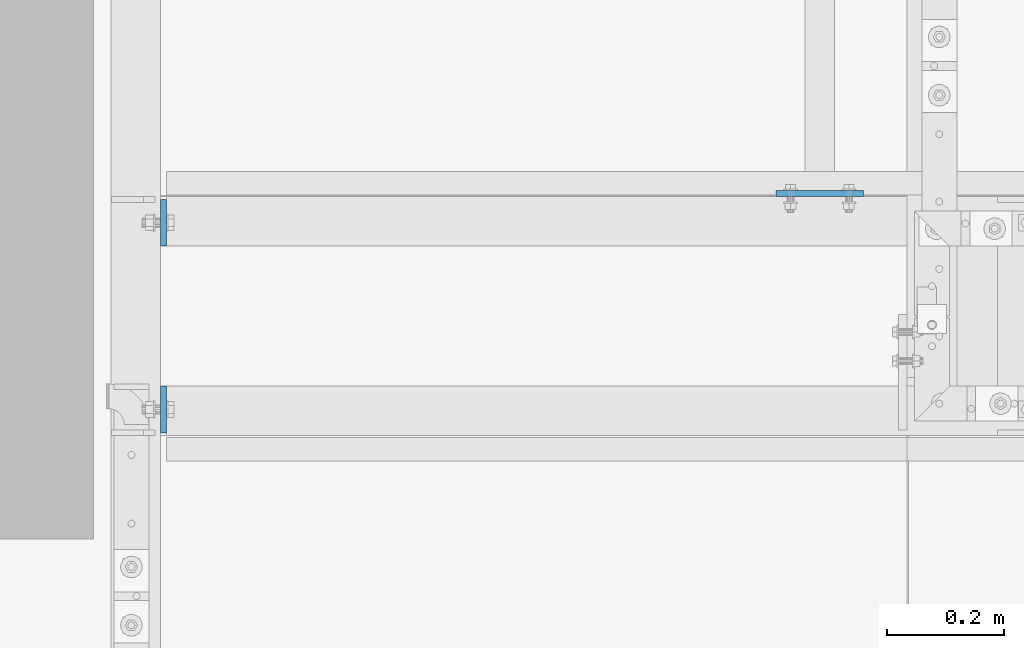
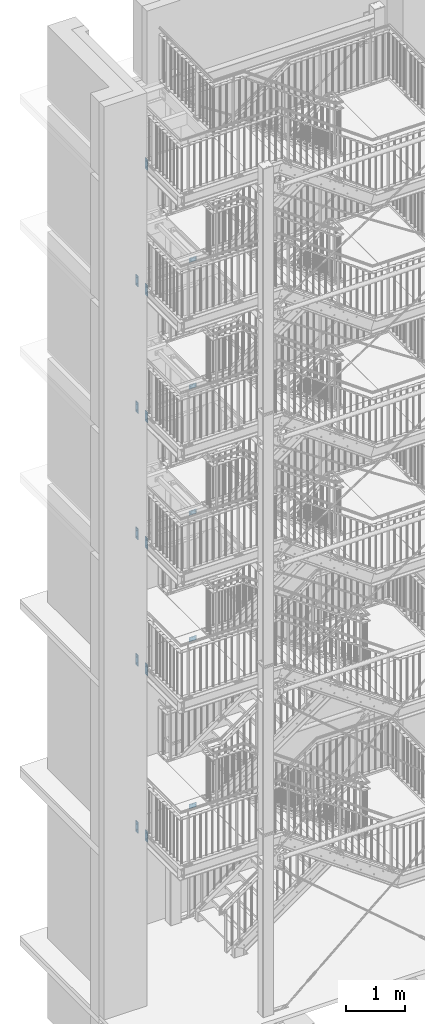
# One storey, part 158 of 825: 16 plates, 64 openings.
"""IFC2X3 building model written with IfcOpenShell, lengths in millimetres."""

from ifc_helpers import new_model, entity, si_unit, converted_unit, frame, frame_2d, origin, origin_with_axes, origin_2d_with_axis, place, context, project, spatial, polyline, circle, outline, extrude, material, layer, layer_set, element, save


model = new_model("IFC2X3")

# Units and contexts
model_context = context("Model", 3, precision=1e-09, world=origin_with_axes())
ifc_project = project(units=[si_unit("LENGTHUNIT", "METRE", prefix="MILLI"), si_unit("AREAUNIT", "SQUARE_METRE"), si_unit("VOLUMEUNIT", "CUBIC_METRE"), converted_unit("PLANEANGLEUNIT", "DEGREE", entity("IfcPlaneAngleMeasure", 0.01745329), si_unit("PLANEANGLEUNIT", "RADIAN"), dimensions=[0, 0, 0, 0, 0, 0, 0])], contexts=[model_context])

# Site, building, storey
site_placement = place(None, origin_with_axes())
site = spatial("IfcSite", under=ifc_project, at=site_placement, Name="Cnopf'sche Kinderklinik", CompositionType="ELEMENT")
building_placement = place(site_placement, origin_with_axes())
building = spatial("IfcBuilding", under=site, at=building_placement, Name="Struktur 1", CompositionType="ELEMENT")
storey_placement = place(building_placement, origin_with_axes())
storey = spatial("IfcBuildingStorey", under=building, at=storey_placement, Name="Default Storey", CompositionType="ELEMENT", Elevation=0.0)

# Plate, openings
ifc_material = material(Name="S235JR")
ifc_layer = layer(ifc_material, 10.0)
ifc_layer_set = layer_set([ifc_layer], Name="S235JR")
plate_1_placement = place(None, frame((4451.713402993, 6147.236971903, 15114.0), z_axis=(0.0, -1.0, 0.0), x_axis=(1.0, 0.0, 0.0)))
plate_1 = element("IfcPlate", 1, at=plate_1_placement, inside=storey, material=ifc_layer_set, Name="-", ObjectType="-", context=model_context, shape_type="SweptSolid", body=[
    extrude(outline(polyline([(-75.0, -45.0), (75.0, -45.0), (75.0, 45.0), (-75.0, 45.0), (-75.0, -45.0)])), origin_with_axes(), (0.0, 0.0, -1.0), 10.0),
])
opening_1_placement = place(plate_1_placement, frame((-10.5, -33.0, 0.5), z_axis=(0.0, 0.0, -1.0), x_axis=(0.0, 1.0, 0.0)))
element("IfcOpeningElement", 2, at=opening_1_placement, cuts=plate_1, ObjectType="Opening", context=model_context, shape_type="SweptSolid", body=[
    extrude(circle(Radius=6.001, at=origin_2d_with_axis()), origin(), (0.0, 0.0, 1.0), 11.0),
])
opening_2_placement = place(plate_1_placement, frame((-10.5, 33.0, 0.5), z_axis=(0.0, 0.0, -1.0), x_axis=(0.0, 1.0, 0.0)))
element("IfcOpeningElement", 3, at=opening_2_placement, cuts=plate_1, ObjectType="Opening", context=model_context, shape_type="SweptSolid", body=[
    extrude(circle(Radius=6.001, at=origin_2d_with_axis()), origin(), (0.0, 0.0, 1.0), 11.0),
])
opening_3_placement = place(plate_1_placement, frame((42.999, 0.0, 0.5), z_axis=(0.0, 0.0, 1.0), x_axis=(1.0, 0.0, 0.0)))
element("IfcOpeningElement", 4, at=opening_3_placement, cuts=plate_1, ObjectType="Opening", context=model_context, shape_type="SweptSolid", body=[
    extrude(circle(Radius=7.001, at=frame_2d((7.001, 0.0), x_axis=(1.0, 0.0))), origin(), (0.0, 0.0, -1.0), 11.0),
])
opening_4_placement = place(plate_1_placement, frame((-57.001, 0.0, 0.5), z_axis=(0.0, 0.0, 1.0), x_axis=(1.0, 0.0, 0.0)))
element("IfcOpeningElement", 5, at=opening_4_placement, cuts=plate_1, ObjectType="Opening", context=model_context, shape_type="SweptSolid", body=[
    extrude(circle(Radius=7.001, at=frame_2d((7.001, 0.0), x_axis=(1.0, 0.0))), origin(), (0.0, 0.0, -1.0), 11.0),
])

plate_2_placement = place(None, frame((4451.713402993, 6147.236971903, 12479.0), z_axis=(0.0, -1.0, 0.0), x_axis=(1.0, 0.0, 0.0)))
plate_2 = element("IfcPlate", 6, at=plate_2_placement, inside=storey, material=ifc_layer_set, Name="-", ObjectType="-", context=model_context, shape_type="SweptSolid", body=[
    extrude(outline(polyline([(-75.0, -45.0), (75.0, -45.0), (75.0, 45.0), (-75.0, 45.0), (-75.0, -45.0)])), origin_with_axes(), (0.0, 0.0, -1.0), 10.0),
])
opening_5_placement = place(plate_2_placement, frame((-10.5, -33.0, 0.5), z_axis=(0.0, 0.0, -1.0), x_axis=(0.0, 1.0, 0.0)))
element("IfcOpeningElement", 7, at=opening_5_placement, cuts=plate_2, ObjectType="Opening", context=model_context, shape_type="SweptSolid", body=[
    extrude(circle(Radius=6.001, at=origin_2d_with_axis()), origin(), (0.0, 0.0, 1.0), 11.0),
])
opening_6_placement = place(plate_2_placement, frame((-10.5, 33.0, 0.5), z_axis=(0.0, 0.0, -1.0), x_axis=(0.0, 1.0, 0.0)))
element("IfcOpeningElement", 8, at=opening_6_placement, cuts=plate_2, ObjectType="Opening", context=model_context, shape_type="SweptSolid", body=[
    extrude(circle(Radius=6.001, at=origin_2d_with_axis()), origin(), (0.0, 0.0, 1.0), 11.0),
])
opening_7_placement = place(plate_2_placement, frame((42.999, 0.0, 0.5), z_axis=(0.0, 0.0, 1.0), x_axis=(1.0, 0.0, 0.0)))
element("IfcOpeningElement", 9, at=opening_7_placement, cuts=plate_2, ObjectType="Opening", context=model_context, shape_type="SweptSolid", body=[
    extrude(circle(Radius=7.001, at=frame_2d((7.001, 0.0), x_axis=(1.0, 0.0))), origin(), (0.0, 0.0, -1.0), 11.0),
])
opening_8_placement = place(plate_2_placement, frame((-57.001, 0.0, 0.5), z_axis=(0.0, 0.0, 1.0), x_axis=(1.0, 0.0, 0.0)))
element("IfcOpeningElement", 10, at=opening_8_placement, cuts=plate_2, ObjectType="Opening", context=model_context, shape_type="SweptSolid", body=[
    extrude(circle(Radius=7.001, at=frame_2d((7.001, 0.0), x_axis=(1.0, 0.0))), origin(), (0.0, 0.0, -1.0), 11.0),
])

plate_3_placement = place(None, frame((4451.713402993, 6147.236971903, 9852.0), z_axis=(0.0, -1.0, 0.0), x_axis=(1.0, 0.0, 0.0)))
plate_3 = element("IfcPlate", 11, at=plate_3_placement, inside=storey, material=ifc_layer_set, Name="-", ObjectType="-", context=model_context, shape_type="SweptSolid", body=[
    extrude(outline(polyline([(-75.0, -45.0), (75.0, -45.0), (75.0, 45.0), (-75.0, 45.0), (-75.0, -45.0)])), origin_with_axes(), (0.0, 0.0, -1.0), 10.0),
])
opening_9_placement = place(plate_3_placement, frame((-10.5, -33.0, 0.5), z_axis=(0.0, 0.0, -1.0), x_axis=(0.0, 1.0, 0.0)))
element("IfcOpeningElement", 12, at=opening_9_placement, cuts=plate_3, ObjectType="Opening", context=model_context, shape_type="SweptSolid", body=[
    extrude(circle(Radius=6.001, at=origin_2d_with_axis()), origin(), (0.0, 0.0, 1.0), 11.0),
])
opening_10_placement = place(plate_3_placement, frame((-10.5, 33.0, 0.5), z_axis=(0.0, 0.0, -1.0), x_axis=(0.0, 1.0, 0.0)))
element("IfcOpeningElement", 13, at=opening_10_placement, cuts=plate_3, ObjectType="Opening", context=model_context, shape_type="SweptSolid", body=[
    extrude(circle(Radius=6.001, at=origin_2d_with_axis()), origin(), (0.0, 0.0, 1.0), 11.0),
])
opening_11_placement = place(plate_3_placement, frame((42.999, 0.0, 0.5), z_axis=(0.0, 0.0, 1.0), x_axis=(1.0, 0.0, 0.0)))
element("IfcOpeningElement", 14, at=opening_11_placement, cuts=plate_3, ObjectType="Opening", context=model_context, shape_type="SweptSolid", body=[
    extrude(circle(Radius=7.001, at=frame_2d((7.001, 0.0), x_axis=(1.0, 0.0))), origin(), (0.0, 0.0, -1.0), 11.0),
])
opening_12_placement = place(plate_3_placement, frame((-57.001, 0.0, 0.5), z_axis=(0.0, 0.0, 1.0), x_axis=(1.0, 0.0, 0.0)))
element("IfcOpeningElement", 15, at=opening_12_placement, cuts=plate_3, ObjectType="Opening", context=model_context, shape_type="SweptSolid", body=[
    extrude(circle(Radius=7.001, at=frame_2d((7.001, 0.0), x_axis=(1.0, 0.0))), origin(), (0.0, 0.0, -1.0), 11.0),
])

plate_4_placement = place(None, frame((4451.713402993, 6147.236971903, 7220.0), z_axis=(0.0, -1.0, 0.0), x_axis=(1.0, 0.0, 0.0)))
plate_4 = element("IfcPlate", 16, at=plate_4_placement, inside=storey, material=ifc_layer_set, Name="-", ObjectType="-", context=model_context, shape_type="SweptSolid", body=[
    extrude(outline(polyline([(-75.0, -45.0), (75.0, -45.0), (75.0, 45.0), (-75.0, 45.0), (-75.0, -45.0)])), origin_with_axes(), (0.0, 0.0, -1.0), 10.0),
])
opening_13_placement = place(plate_4_placement, frame((-10.5, -33.0, 0.5), z_axis=(0.0, 0.0, -1.0), x_axis=(0.0, 1.0, 0.0)))
element("IfcOpeningElement", 17, at=opening_13_placement, cuts=plate_4, ObjectType="Opening", context=model_context, shape_type="SweptSolid", body=[
    extrude(circle(Radius=6.001, at=origin_2d_with_axis()), origin(), (0.0, 0.0, 1.0), 11.0),
])
opening_14_placement = place(plate_4_placement, frame((-10.5, 33.0, 0.5), z_axis=(0.0, 0.0, -1.0), x_axis=(0.0, 1.0, 0.0)))
element("IfcOpeningElement", 18, at=opening_14_placement, cuts=plate_4, ObjectType="Opening", context=model_context, shape_type="SweptSolid", body=[
    extrude(circle(Radius=6.001, at=origin_2d_with_axis()), origin(), (0.0, 0.0, 1.0), 11.0),
])
opening_15_placement = place(plate_4_placement, frame((42.999, 0.0, 0.5), z_axis=(0.0, 0.0, 1.0), x_axis=(1.0, 0.0, 0.0)))
element("IfcOpeningElement", 19, at=opening_15_placement, cuts=plate_4, ObjectType="Opening", context=model_context, shape_type="SweptSolid", body=[
    extrude(circle(Radius=7.001, at=frame_2d((7.001, 0.0), x_axis=(1.0, 0.0))), origin(), (0.0, 0.0, -1.0), 11.0),
])
opening_16_placement = place(plate_4_placement, frame((-57.001, 0.0, 0.5), z_axis=(0.0, 0.0, 1.0), x_axis=(1.0, 0.0, 0.0)))
element("IfcOpeningElement", 20, at=opening_16_placement, cuts=plate_4, ObjectType="Opening", context=model_context, shape_type="SweptSolid", body=[
    extrude(circle(Radius=7.001, at=frame_2d((7.001, 0.0), x_axis=(1.0, 0.0))), origin(), (0.0, 0.0, -1.0), 11.0),
])

plate_5_placement = place(None, frame((4451.713402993, 6147.236971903, 3747.0), z_axis=(0.0, -1.0, 0.0), x_axis=(1.0, 0.0, 0.0)))
plate_5 = element("IfcPlate", 21, at=plate_5_placement, inside=storey, material=ifc_layer_set, Name="-", ObjectType="-", context=model_context, shape_type="SweptSolid", body=[
    extrude(outline(polyline([(-75.0, -45.0), (75.0, -45.0), (75.0, 45.0), (-75.0, 45.0), (-75.0, -45.0)])), origin_with_axes(), (0.0, 0.0, -1.0), 10.0),
])
opening_17_placement = place(plate_5_placement, frame((-10.5, -33.0, 0.5), z_axis=(0.0, 0.0, -1.0), x_axis=(0.0, 1.0, 0.0)))
element("IfcOpeningElement", 22, at=opening_17_placement, cuts=plate_5, ObjectType="Opening", context=model_context, shape_type="SweptSolid", body=[
    extrude(circle(Radius=6.001, at=origin_2d_with_axis()), origin(), (0.0, 0.0, 1.0), 11.0),
])
opening_18_placement = place(plate_5_placement, frame((-10.5, 33.0, 0.5), z_axis=(0.0, 0.0, -1.0), x_axis=(0.0, 1.0, 0.0)))
element("IfcOpeningElement", 23, at=opening_18_placement, cuts=plate_5, ObjectType="Opening", context=model_context, shape_type="SweptSolid", body=[
    extrude(circle(Radius=6.001, at=origin_2d_with_axis()), origin(), (0.0, 0.0, 1.0), 11.0),
])
opening_19_placement = place(plate_5_placement, frame((42.999, 0.0, 0.5), z_axis=(0.0, 0.0, 1.0), x_axis=(1.0, 0.0, 0.0)))
element("IfcOpeningElement", 24, at=opening_19_placement, cuts=plate_5, ObjectType="Opening", context=model_context, shape_type="SweptSolid", body=[
    extrude(circle(Radius=7.001, at=frame_2d((7.001, 0.0), x_axis=(1.0, 0.0))), origin(), (0.0, 0.0, -1.0), 11.0),
])
opening_20_placement = place(plate_5_placement, frame((-57.001, 0.0, 0.5), z_axis=(0.0, 0.0, 1.0), x_axis=(1.0, 0.0, 0.0)))
element("IfcOpeningElement", 25, at=opening_20_placement, cuts=plate_5, ObjectType="Opening", context=model_context, shape_type="SweptSolid", body=[
    extrude(circle(Radius=7.001, at=frame_2d((7.001, 0.0), x_axis=(1.0, 0.0))), origin(), (0.0, 0.0, -1.0), 11.0),
])

plate_6_placement = place(None, frame((3321.713402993, 5741.736971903, 3842.0), z_axis=(1.0, 0.0, 0.0), x_axis=(0.0, 0.0, -1.0)))
plate_6 = element("IfcPlate", 26, at=plate_6_placement, inside=storey, material=ifc_layer_set, Name="Endplate", ObjectType="Endplate", context=model_context, shape_type="SweptSolid", body=[
    extrude(outline(polyline([(0.0, 0.0), (230.0, 0.0), (230.0, 80.0), (0.0, 80.0), (0.0, 0.0)])), origin_with_axes(), (0.0, 0.0, 1.0), 10.0),
])
opening_21_placement = place(plate_6_placement, frame((209.0, 17.5, -0.5), z_axis=(0.0, 0.0, 1.0), x_axis=(1.0, 0.0, 0.0)))
element("IfcOpeningElement", 27, at=opening_21_placement, cuts=plate_6, ObjectType="Opening", context=model_context, shape_type="SweptSolid", body=[
    extrude(circle(Radius=6.001, at=origin_2d_with_axis()), origin(), (0.0, 0.0, 1.0), 11.0),
])
opening_22_placement = place(plate_6_placement, frame((21.0, 17.5, -0.5), z_axis=(0.0, 0.0, 1.0), x_axis=(1.0, 0.0, 0.0)))
element("IfcOpeningElement", 28, at=opening_22_placement, cuts=plate_6, ObjectType="Opening", context=model_context, shape_type="SweptSolid", body=[
    extrude(circle(Radius=6.001, at=origin_2d_with_axis()), origin(), (0.0, 0.0, 1.0), 11.0),
])
opening_23_placement = place(plate_6_placement, frame((64.001, 40.0, -0.5), z_axis=(0.0, 0.0, -1.0), x_axis=(-1.0, 0.0, 0.0)))
element("IfcOpeningElement", 29, at=opening_23_placement, cuts=plate_6, ObjectType="Opening", context=model_context, shape_type="SweptSolid", body=[
    extrude(circle(Radius=9.001, at=frame_2d((9.001, 0.0), x_axis=(1.0, 0.0))), origin(), (0.0, 0.0, -1.0), 11.0),
])
opening_24_placement = place(plate_6_placement, frame((184.001, 40.0, -0.5), z_axis=(0.0, 0.0, -1.0), x_axis=(-1.0, 0.0, 0.0)))
element("IfcOpeningElement", 30, at=opening_24_placement, cuts=plate_6, ObjectType="Opening", context=model_context, shape_type="SweptSolid", body=[
    extrude(circle(Radius=9.001, at=frame_2d((9.001, 0.0), x_axis=(1.0, 0.0))), origin(), (0.0, 0.0, -1.0), 11.0),
])

plate_7_placement = place(None, frame((3321.713402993, 5741.736971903, 7315.0), z_axis=(1.0, 0.0, 0.0), x_axis=(0.0, 0.0, -1.0)))
plate_7 = element("IfcPlate", 31, at=plate_7_placement, inside=storey, material=ifc_layer_set, Name="Endplate", ObjectType="Endplate", context=model_context, shape_type="SweptSolid", body=[
    extrude(outline(polyline([(0.0, 0.0), (230.0, 0.0), (230.0, 80.0), (0.0, 80.0), (0.0, 0.0)])), origin_with_axes(), (0.0, 0.0, 1.0), 10.0),
])
opening_25_placement = place(plate_7_placement, frame((209.0, 17.5, -0.5), z_axis=(0.0, 0.0, 1.0), x_axis=(1.0, 0.0, 0.0)))
element("IfcOpeningElement", 32, at=opening_25_placement, cuts=plate_7, ObjectType="Opening", context=model_context, shape_type="SweptSolid", body=[
    extrude(circle(Radius=6.001, at=origin_2d_with_axis()), origin(), (0.0, 0.0, 1.0), 11.0),
])
opening_26_placement = place(plate_7_placement, frame((21.0, 17.5, -0.5), z_axis=(0.0, 0.0, 1.0), x_axis=(1.0, 0.0, 0.0)))
element("IfcOpeningElement", 33, at=opening_26_placement, cuts=plate_7, ObjectType="Opening", context=model_context, shape_type="SweptSolid", body=[
    extrude(circle(Radius=6.001, at=origin_2d_with_axis()), origin(), (0.0, 0.0, 1.0), 11.0),
])
opening_27_placement = place(plate_7_placement, frame((64.001, 40.0, -0.5), z_axis=(0.0, 0.0, -1.0), x_axis=(-1.0, 0.0, 0.0)))
element("IfcOpeningElement", 34, at=opening_27_placement, cuts=plate_7, ObjectType="Opening", context=model_context, shape_type="SweptSolid", body=[
    extrude(circle(Radius=9.001, at=frame_2d((9.001, 0.0), x_axis=(1.0, 0.0))), origin(), (0.0, 0.0, -1.0), 11.0),
])
opening_28_placement = place(plate_7_placement, frame((184.001, 40.0, -0.5), z_axis=(0.0, 0.0, -1.0), x_axis=(-1.0, 0.0, 0.0)))
element("IfcOpeningElement", 35, at=opening_28_placement, cuts=plate_7, ObjectType="Opening", context=model_context, shape_type="SweptSolid", body=[
    extrude(circle(Radius=9.001, at=frame_2d((9.001, 0.0), x_axis=(1.0, 0.0))), origin(), (0.0, 0.0, -1.0), 11.0),
])

plate_8_placement = place(None, frame((3321.713402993, 5741.736971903, 9947.0), z_axis=(1.0, 0.0, 0.0), x_axis=(0.0, 0.0, -1.0)))
plate_8 = element("IfcPlate", 36, at=plate_8_placement, inside=storey, material=ifc_layer_set, Name="Endplate", ObjectType="Endplate", context=model_context, shape_type="SweptSolid", body=[
    extrude(outline(polyline([(0.0, 0.0), (230.0, 0.0), (230.0, 80.0), (0.0, 80.0), (0.0, 0.0)])), origin_with_axes(), (0.0, 0.0, 1.0), 10.0),
])
opening_29_placement = place(plate_8_placement, frame((209.0, 17.5, -0.5), z_axis=(0.0, 0.0, 1.0), x_axis=(1.0, 0.0, 0.0)))
element("IfcOpeningElement", 37, at=opening_29_placement, cuts=plate_8, ObjectType="Opening", context=model_context, shape_type="SweptSolid", body=[
    extrude(circle(Radius=6.001, at=origin_2d_with_axis()), origin(), (0.0, 0.0, 1.0), 11.0),
])
opening_30_placement = place(plate_8_placement, frame((21.0, 17.5, -0.5), z_axis=(0.0, 0.0, 1.0), x_axis=(1.0, 0.0, 0.0)))
element("IfcOpeningElement", 38, at=opening_30_placement, cuts=plate_8, ObjectType="Opening", context=model_context, shape_type="SweptSolid", body=[
    extrude(circle(Radius=6.001, at=origin_2d_with_axis()), origin(), (0.0, 0.0, 1.0), 11.0),
])
opening_31_placement = place(plate_8_placement, frame((64.001, 40.0, -0.5), z_axis=(0.0, 0.0, -1.0), x_axis=(-1.0, 0.0, 0.0)))
element("IfcOpeningElement", 39, at=opening_31_placement, cuts=plate_8, ObjectType="Opening", context=model_context, shape_type="SweptSolid", body=[
    extrude(circle(Radius=9.001, at=frame_2d((9.001, 0.0), x_axis=(1.0, 0.0))), origin(), (0.0, 0.0, -1.0), 11.0),
])
opening_32_placement = place(plate_8_placement, frame((184.001, 40.0, -0.5), z_axis=(0.0, 0.0, -1.0), x_axis=(-1.0, 0.0, 0.0)))
element("IfcOpeningElement", 40, at=opening_32_placement, cuts=plate_8, ObjectType="Opening", context=model_context, shape_type="SweptSolid", body=[
    extrude(circle(Radius=9.001, at=frame_2d((9.001, 0.0), x_axis=(1.0, 0.0))), origin(), (0.0, 0.0, -1.0), 11.0),
])

plate_9_placement = place(None, frame((3321.713402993, 5741.736971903, 12574.0), z_axis=(1.0, 0.0, 0.0), x_axis=(0.0, 0.0, -1.0)))
plate_9 = element("IfcPlate", 41, at=plate_9_placement, inside=storey, material=ifc_layer_set, Name="Endplate", ObjectType="Endplate", context=model_context, shape_type="SweptSolid", body=[
    extrude(outline(polyline([(0.0, 0.0), (230.0, 0.0), (230.0, 80.0), (0.0, 80.0), (0.0, 0.0)])), origin_with_axes(), (0.0, 0.0, 1.0), 10.0),
])
opening_33_placement = place(plate_9_placement, frame((209.0, 17.5, -0.5), z_axis=(0.0, 0.0, 1.0), x_axis=(1.0, 0.0, 0.0)))
element("IfcOpeningElement", 42, at=opening_33_placement, cuts=plate_9, ObjectType="Opening", context=model_context, shape_type="SweptSolid", body=[
    extrude(circle(Radius=6.001, at=origin_2d_with_axis()), origin(), (0.0, 0.0, 1.0), 11.0),
])
opening_34_placement = place(plate_9_placement, frame((21.0, 17.5, -0.5), z_axis=(0.0, 0.0, 1.0), x_axis=(1.0, 0.0, 0.0)))
element("IfcOpeningElement", 43, at=opening_34_placement, cuts=plate_9, ObjectType="Opening", context=model_context, shape_type="SweptSolid", body=[
    extrude(circle(Radius=6.001, at=origin_2d_with_axis()), origin(), (0.0, 0.0, 1.0), 11.0),
])
opening_35_placement = place(plate_9_placement, frame((64.001, 40.0, -0.5), z_axis=(0.0, 0.0, -1.0), x_axis=(-1.0, 0.0, 0.0)))
element("IfcOpeningElement", 44, at=opening_35_placement, cuts=plate_9, ObjectType="Opening", context=model_context, shape_type="SweptSolid", body=[
    extrude(circle(Radius=9.001, at=frame_2d((9.001, 0.0), x_axis=(1.0, 0.0))), origin(), (0.0, 0.0, -1.0), 11.0),
])
opening_36_placement = place(plate_9_placement, frame((184.001, 40.0, -0.5), z_axis=(0.0, 0.0, -1.0), x_axis=(-1.0, 0.0, 0.0)))
element("IfcOpeningElement", 45, at=opening_36_placement, cuts=plate_9, ObjectType="Opening", context=model_context, shape_type="SweptSolid", body=[
    extrude(circle(Radius=9.001, at=frame_2d((9.001, 0.0), x_axis=(1.0, 0.0))), origin(), (0.0, 0.0, -1.0), 11.0),
])

plate_10_placement = place(None, frame((3321.713402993, 5741.736971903, 15209.0), z_axis=(1.0, 0.0, 0.0), x_axis=(0.0, 0.0, -1.0)))
plate_10 = element("IfcPlate", 46, at=plate_10_placement, inside=storey, material=ifc_layer_set, Name="Endplate", ObjectType="Endplate", context=model_context, shape_type="SweptSolid", body=[
    extrude(outline(polyline([(0.0, 0.0), (230.0, 0.0), (230.0, 80.0), (0.0, 80.0), (0.0, 0.0)])), origin_with_axes(), (0.0, 0.0, 1.0), 10.0),
])
opening_37_placement = place(plate_10_placement, frame((209.0, 17.5, -0.5), z_axis=(0.0, 0.0, 1.0), x_axis=(1.0, 0.0, 0.0)))
element("IfcOpeningElement", 47, at=opening_37_placement, cuts=plate_10, ObjectType="Opening", context=model_context, shape_type="SweptSolid", body=[
    extrude(circle(Radius=6.001, at=origin_2d_with_axis()), origin(), (0.0, 0.0, 1.0), 11.0),
])
opening_38_placement = place(plate_10_placement, frame((21.0, 17.5, -0.5), z_axis=(0.0, 0.0, 1.0), x_axis=(1.0, 0.0, 0.0)))
element("IfcOpeningElement", 48, at=opening_38_placement, cuts=plate_10, ObjectType="Opening", context=model_context, shape_type="SweptSolid", body=[
    extrude(circle(Radius=6.001, at=origin_2d_with_axis()), origin(), (0.0, 0.0, 1.0), 11.0),
])
opening_39_placement = place(plate_10_placement, frame((64.001, 40.0, -0.5), z_axis=(0.0, 0.0, -1.0), x_axis=(-1.0, 0.0, 0.0)))
element("IfcOpeningElement", 49, at=opening_39_placement, cuts=plate_10, ObjectType="Opening", context=model_context, shape_type="SweptSolid", body=[
    extrude(circle(Radius=9.001, at=frame_2d((9.001, 0.0), x_axis=(1.0, 0.0))), origin(), (0.0, 0.0, -1.0), 11.0),
])
opening_40_placement = place(plate_10_placement, frame((184.001, 40.0, -0.5), z_axis=(0.0, 0.0, -1.0), x_axis=(-1.0, 0.0, 0.0)))
element("IfcOpeningElement", 50, at=opening_40_placement, cuts=plate_10, ObjectType="Opening", context=model_context, shape_type="SweptSolid", body=[
    extrude(circle(Radius=9.001, at=frame_2d((9.001, 0.0), x_axis=(1.0, 0.0))), origin(), (0.0, 0.0, -1.0), 11.0),
])

plate_11_placement = place(None, frame((3321.713402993, 5741.736971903, 17828.999999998), z_axis=(1.0, 0.0, 0.0), x_axis=(0.0, 0.0, -1.0)))
plate_11 = element("IfcPlate", 51, at=plate_11_placement, inside=storey, material=ifc_layer_set, Name="Endplate", ObjectType="Endplate", context=model_context, shape_type="SweptSolid", body=[
    extrude(outline(polyline([(0.0, 0.0), (230.0, 0.0), (230.0, 80.0), (0.0, 80.0), (0.0, 0.0)])), origin_with_axes(), (0.0, 0.0, 1.0), 10.0),
])
opening_41_placement = place(plate_11_placement, frame((209.0, 17.5, -0.5), z_axis=(0.0, 0.0, 1.0), x_axis=(1.0, 0.0, 0.0)))
element("IfcOpeningElement", 52, at=opening_41_placement, cuts=plate_11, ObjectType="Opening", context=model_context, shape_type="SweptSolid", body=[
    extrude(circle(Radius=6.001, at=origin_2d_with_axis()), origin(), (0.0, 0.0, 1.0), 11.0),
])
opening_42_placement = place(plate_11_placement, frame((21.0, 17.5, -0.5), z_axis=(0.0, 0.0, 1.0), x_axis=(1.0, 0.0, 0.0)))
element("IfcOpeningElement", 53, at=opening_42_placement, cuts=plate_11, ObjectType="Opening", context=model_context, shape_type="SweptSolid", body=[
    extrude(circle(Radius=6.001, at=origin_2d_with_axis()), origin(), (0.0, 0.0, 1.0), 11.0),
])
opening_43_placement = place(plate_11_placement, frame((64.001, 40.0, -0.5), z_axis=(0.0, 0.0, -1.0), x_axis=(-1.0, 0.0, 0.0)))
element("IfcOpeningElement", 54, at=opening_43_placement, cuts=plate_11, ObjectType="Opening", context=model_context, shape_type="SweptSolid", body=[
    extrude(circle(Radius=9.001, at=frame_2d((9.001, 0.0), x_axis=(1.0, 0.0))), origin(), (0.0, 0.0, -1.0), 11.0),
])
opening_44_placement = place(plate_11_placement, frame((184.001, 40.0, -0.5), z_axis=(0.0, 0.0, -1.0), x_axis=(-1.0, 0.0, 0.0)))
element("IfcOpeningElement", 55, at=opening_44_placement, cuts=plate_11, ObjectType="Opening", context=model_context, shape_type="SweptSolid", body=[
    extrude(circle(Radius=9.001, at=frame_2d((9.001, 0.0), x_axis=(1.0, 0.0))), origin(), (0.0, 0.0, -1.0), 11.0),
])

plate_12_placement = place(None, frame((3321.713402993, 6141.736971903, 3842.0), z_axis=(1.0, 0.0, 0.0), x_axis=(0.0, -1.0, 0.0)))
plate_12 = element("IfcPlate", 56, at=plate_12_placement, inside=storey, material=ifc_layer_set, Name="Endplate", ObjectType="Endplate", context=model_context, shape_type="SweptSolid", body=[
    extrude(outline(polyline([(0.0, 0.0), (80.0, 0.0), (80.0, 230.0), (0.0, 230.0), (0.0, 0.0)])), origin_with_axes(), (0.0, 0.0, 1.0), 10.0),
])
opening_45_placement = place(plate_12_placement, frame((17.5, 209.0, -0.5), z_axis=(0.0, 0.0, 1.0), x_axis=(0.0, -1.0, 0.0)))
element("IfcOpeningElement", 57, at=opening_45_placement, cuts=plate_12, ObjectType="Opening", context=model_context, shape_type="SweptSolid", body=[
    extrude(circle(Radius=6.001, at=origin_2d_with_axis()), origin(), (0.0, 0.0, 1.0), 11.0),
])
opening_46_placement = place(plate_12_placement, frame((17.5, 21.0, -0.5), z_axis=(0.0, 0.0, 1.0), x_axis=(0.0, -1.0, 0.0)))
element("IfcOpeningElement", 58, at=opening_46_placement, cuts=plate_12, ObjectType="Opening", context=model_context, shape_type="SweptSolid", body=[
    extrude(circle(Radius=6.001, at=origin_2d_with_axis()), origin(), (0.0, 0.0, 1.0), 11.0),
])
opening_47_placement = place(plate_12_placement, frame((40.0, 115.0, -0.5), z_axis=(0.0, 0.0, 1.0), x_axis=(0.0, -1.0, 0.0)))
element("IfcOpeningElement", 59, at=opening_47_placement, cuts=plate_12, ObjectType="Opening", context=model_context, shape_type="SweptSolid", body=[
    extrude(circle(Radius=9.001, at=frame_2d((60.0, 0.0), x_axis=(1.0, 0.0))), origin(), (0.0, 0.0, 1.0), 11.0),
])
opening_48_placement = place(plate_12_placement, frame((40.0, 115.0, -0.5), z_axis=(0.0, 0.0, 1.0), x_axis=(0.0, -1.0, 0.0)))
element("IfcOpeningElement", 60, at=opening_48_placement, cuts=plate_12, ObjectType="Opening", context=model_context, shape_type="SweptSolid", body=[
    extrude(circle(Radius=9.001, at=frame_2d((-60.0, 0.0), x_axis=(1.0, 0.0))), origin(), (0.0, 0.0, 1.0), 11.0),
])

plate_13_placement = place(None, frame((3321.713402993, 6141.736971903, 7315.0), z_axis=(1.0, 0.0, 0.0), x_axis=(0.0, -1.0, 0.0)))
plate_13 = element("IfcPlate", 61, at=plate_13_placement, inside=storey, material=ifc_layer_set, Name="Endplate", ObjectType="Endplate", context=model_context, shape_type="SweptSolid", body=[
    extrude(outline(polyline([(0.0, 0.0), (80.0, 0.0), (80.0, 230.0), (0.0, 230.0), (0.0, 0.0)])), origin_with_axes(), (0.0, 0.0, 1.0), 10.0),
])
opening_49_placement = place(plate_13_placement, frame((17.5, 209.0, -0.5), z_axis=(0.0, 0.0, 1.0), x_axis=(0.0, -1.0, 0.0)))
element("IfcOpeningElement", 62, at=opening_49_placement, cuts=plate_13, ObjectType="Opening", context=model_context, shape_type="SweptSolid", body=[
    extrude(circle(Radius=6.001, at=origin_2d_with_axis()), origin(), (0.0, 0.0, 1.0), 11.0),
])
opening_50_placement = place(plate_13_placement, frame((17.5, 21.0, -0.5), z_axis=(0.0, 0.0, 1.0), x_axis=(0.0, -1.0, 0.0)))
element("IfcOpeningElement", 63, at=opening_50_placement, cuts=plate_13, ObjectType="Opening", context=model_context, shape_type="SweptSolid", body=[
    extrude(circle(Radius=6.001, at=origin_2d_with_axis()), origin(), (0.0, 0.0, 1.0), 11.0),
])
opening_51_placement = place(plate_13_placement, frame((40.0, 115.0, -0.5), z_axis=(0.0, 0.0, 1.0), x_axis=(0.0, -1.0, 0.0)))
element("IfcOpeningElement", 64, at=opening_51_placement, cuts=plate_13, ObjectType="Opening", context=model_context, shape_type="SweptSolid", body=[
    extrude(circle(Radius=9.001, at=frame_2d((60.0, 0.0), x_axis=(1.0, 0.0))), origin(), (0.0, 0.0, 1.0), 11.0),
])
opening_52_placement = place(plate_13_placement, frame((40.0, 115.0, -0.5), z_axis=(0.0, 0.0, 1.0), x_axis=(0.0, -1.0, 0.0)))
element("IfcOpeningElement", 65, at=opening_52_placement, cuts=plate_13, ObjectType="Opening", context=model_context, shape_type="SweptSolid", body=[
    extrude(circle(Radius=9.001, at=frame_2d((-60.0, 0.0), x_axis=(1.0, 0.0))), origin(), (0.0, 0.0, 1.0), 11.0),
])

plate_14_placement = place(None, frame((3321.713402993, 6141.736971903, 9947.0), z_axis=(1.0, 0.0, 0.0), x_axis=(0.0, -1.0, 0.0)))
plate_14 = element("IfcPlate", 66, at=plate_14_placement, inside=storey, material=ifc_layer_set, Name="Endplate", ObjectType="Endplate", context=model_context, shape_type="SweptSolid", body=[
    extrude(outline(polyline([(0.0, 0.0), (80.0, 0.0), (80.0, 230.0), (0.0, 230.0), (0.0, 0.0)])), origin_with_axes(), (0.0, 0.0, 1.0), 10.0),
])
opening_53_placement = place(plate_14_placement, frame((17.5, 209.0, -0.5), z_axis=(0.0, 0.0, 1.0), x_axis=(0.0, -1.0, 0.0)))
element("IfcOpeningElement", 67, at=opening_53_placement, cuts=plate_14, ObjectType="Opening", context=model_context, shape_type="SweptSolid", body=[
    extrude(circle(Radius=6.001, at=origin_2d_with_axis()), origin(), (0.0, 0.0, 1.0), 11.0),
])
opening_54_placement = place(plate_14_placement, frame((17.5, 21.0, -0.5), z_axis=(0.0, 0.0, 1.0), x_axis=(0.0, -1.0, 0.0)))
element("IfcOpeningElement", 68, at=opening_54_placement, cuts=plate_14, ObjectType="Opening", context=model_context, shape_type="SweptSolid", body=[
    extrude(circle(Radius=6.001, at=origin_2d_with_axis()), origin(), (0.0, 0.0, 1.0), 11.0),
])
opening_55_placement = place(plate_14_placement, frame((40.0, 115.0, -0.5), z_axis=(0.0, 0.0, 1.0), x_axis=(0.0, -1.0, 0.0)))
element("IfcOpeningElement", 69, at=opening_55_placement, cuts=plate_14, ObjectType="Opening", context=model_context, shape_type="SweptSolid", body=[
    extrude(circle(Radius=9.001, at=frame_2d((60.0, 0.0), x_axis=(1.0, 0.0))), origin(), (0.0, 0.0, 1.0), 11.0),
])
opening_56_placement = place(plate_14_placement, frame((40.0, 115.0, -0.5), z_axis=(0.0, 0.0, 1.0), x_axis=(0.0, -1.0, 0.0)))
element("IfcOpeningElement", 70, at=opening_56_placement, cuts=plate_14, ObjectType="Opening", context=model_context, shape_type="SweptSolid", body=[
    extrude(circle(Radius=9.001, at=frame_2d((-60.0, 0.0), x_axis=(1.0, 0.0))), origin(), (0.0, 0.0, 1.0), 11.0),
])

plate_15_placement = place(None, frame((3321.713402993, 6141.736971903, 12574.0), z_axis=(1.0, 0.0, 0.0), x_axis=(0.0, -1.0, 0.0)))
plate_15 = element("IfcPlate", 71, at=plate_15_placement, inside=storey, material=ifc_layer_set, Name="Endplate", ObjectType="Endplate", context=model_context, shape_type="SweptSolid", body=[
    extrude(outline(polyline([(0.0, 0.0), (80.0, 0.0), (80.0, 230.0), (0.0, 230.0), (0.0, 0.0)])), origin_with_axes(), (0.0, 0.0, 1.0), 10.0),
])
opening_57_placement = place(plate_15_placement, frame((17.5, 209.0, -0.5), z_axis=(0.0, 0.0, 1.0), x_axis=(0.0, -1.0, 0.0)))
element("IfcOpeningElement", 72, at=opening_57_placement, cuts=plate_15, ObjectType="Opening", context=model_context, shape_type="SweptSolid", body=[
    extrude(circle(Radius=6.001, at=origin_2d_with_axis()), origin(), (0.0, 0.0, 1.0), 11.0),
])
opening_58_placement = place(plate_15_placement, frame((17.5, 21.0, -0.5), z_axis=(0.0, 0.0, 1.0), x_axis=(0.0, -1.0, 0.0)))
element("IfcOpeningElement", 73, at=opening_58_placement, cuts=plate_15, ObjectType="Opening", context=model_context, shape_type="SweptSolid", body=[
    extrude(circle(Radius=6.001, at=origin_2d_with_axis()), origin(), (0.0, 0.0, 1.0), 11.0),
])
opening_59_placement = place(plate_15_placement, frame((40.0, 115.0, -0.5), z_axis=(0.0, 0.0, 1.0), x_axis=(0.0, -1.0, 0.0)))
element("IfcOpeningElement", 74, at=opening_59_placement, cuts=plate_15, ObjectType="Opening", context=model_context, shape_type="SweptSolid", body=[
    extrude(circle(Radius=9.001, at=frame_2d((60.0, 0.0), x_axis=(1.0, 0.0))), origin(), (0.0, 0.0, 1.0), 11.0),
])
opening_60_placement = place(plate_15_placement, frame((40.0, 115.0, -0.5), z_axis=(0.0, 0.0, 1.0), x_axis=(0.0, -1.0, 0.0)))
element("IfcOpeningElement", 75, at=opening_60_placement, cuts=plate_15, ObjectType="Opening", context=model_context, shape_type="SweptSolid", body=[
    extrude(circle(Radius=9.001, at=frame_2d((-60.0, 0.0), x_axis=(1.0, 0.0))), origin(), (0.0, 0.0, 1.0), 11.0),
])

plate_16_placement = place(None, frame((3321.713402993, 6141.736971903, 15209.0), z_axis=(1.0, 0.0, 0.0), x_axis=(0.0, -1.0, 0.0)))
plate_16 = element("IfcPlate", 76, at=plate_16_placement, inside=storey, material=ifc_layer_set, Name="Endplate", ObjectType="Endplate", context=model_context, shape_type="SweptSolid", body=[
    extrude(outline(polyline([(0.0, 0.0), (80.0, 0.0), (80.0, 230.0), (0.0, 230.0), (0.0, 0.0)])), origin_with_axes(), (0.0, 0.0, 1.0), 10.0),
])
opening_61_placement = place(plate_16_placement, frame((17.5, 209.0, -0.5), z_axis=(0.0, 0.0, 1.0), x_axis=(0.0, -1.0, 0.0)))
element("IfcOpeningElement", 77, at=opening_61_placement, cuts=plate_16, ObjectType="Opening", context=model_context, shape_type="SweptSolid", body=[
    extrude(circle(Radius=6.001, at=origin_2d_with_axis()), origin(), (0.0, 0.0, 1.0), 11.0),
])
opening_62_placement = place(plate_16_placement, frame((17.5, 21.0, -0.5), z_axis=(0.0, 0.0, 1.0), x_axis=(0.0, -1.0, 0.0)))
element("IfcOpeningElement", 78, at=opening_62_placement, cuts=plate_16, ObjectType="Opening", context=model_context, shape_type="SweptSolid", body=[
    extrude(circle(Radius=6.001, at=origin_2d_with_axis()), origin(), (0.0, 0.0, 1.0), 11.0),
])
opening_63_placement = place(plate_16_placement, frame((40.0, 115.0, -0.5), z_axis=(0.0, 0.0, 1.0), x_axis=(0.0, -1.0, 0.0)))
element("IfcOpeningElement", 79, at=opening_63_placement, cuts=plate_16, ObjectType="Opening", context=model_context, shape_type="SweptSolid", body=[
    extrude(circle(Radius=9.001, at=frame_2d((60.0, 0.0), x_axis=(1.0, 0.0))), origin(), (0.0, 0.0, 1.0), 11.0),
])
opening_64_placement = place(plate_16_placement, frame((40.0, 115.0, -0.5), z_axis=(0.0, 0.0, 1.0), x_axis=(0.0, -1.0, 0.0)))
element("IfcOpeningElement", 80, at=opening_64_placement, cuts=plate_16, ObjectType="Opening", context=model_context, shape_type="SweptSolid", body=[
    extrude(circle(Radius=9.001, at=frame_2d((-60.0, 0.0), x_axis=(1.0, 0.0))), origin(), (0.0, 0.0, 1.0), 11.0),
])

save(model, "model.ifc")
